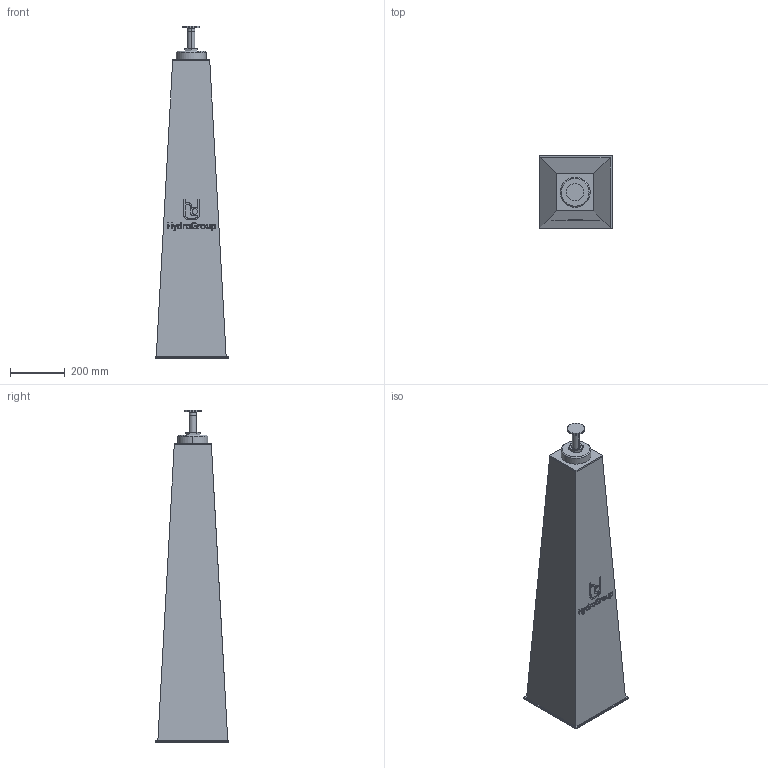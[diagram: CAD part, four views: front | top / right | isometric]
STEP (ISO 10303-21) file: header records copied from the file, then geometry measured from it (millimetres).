
FILE_DESCRIPTION(('STEP AP214'),'1');
FILE_NAME('RSRFE-IV-05-V1.stp','2018-06-29T11:10:32',(' '),(' '),'Spatial InterOp 3D',' ',' ');
FILE_SCHEMA(('automotive_design'));
Length unit declared in the file: millimetre
Products named in the file (6): 1; 2; 3; 4; 5; 6
Bounding box: 270 x 270 x 1216 mm (x, y, z)
Volume: 43882810 mm3; surface area: 1175863.2 mm2
Topology: 6 solids, 6 shells, 216 faces, 529 edges, 344 vertices
Faces by surface type: plane 135, cylinder 33, extrusion 24, cone 20, torus 4
Entity records: 8692 total; most frequent: CARTESIAN_POINT 1769, ORIENTED_EDGE 1058, DIRECTION 983, EDGE_CURVE 529, VECTOR 399, LINE 375, VERTEX_POINT 344, AXIS2_PLACEMENT_3D 292
